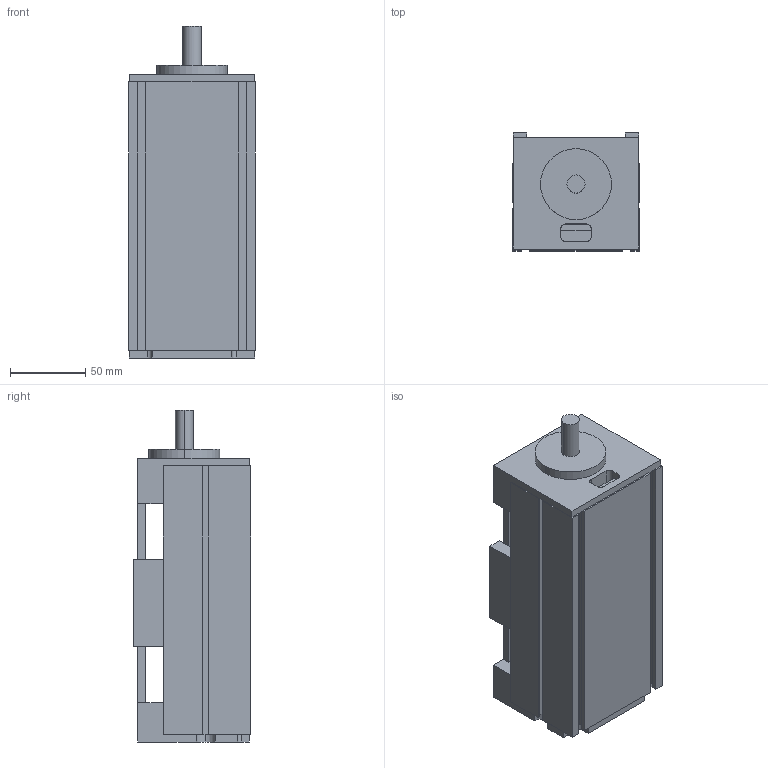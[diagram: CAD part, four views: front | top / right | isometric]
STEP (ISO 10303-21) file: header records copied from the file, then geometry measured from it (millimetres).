
FILE_DESCRIPTION (( 'STEP AP203' ), '1' );
FILE_NAME ('MSX84B-100-LL2005-P7短面板式 .STEP', '2013-11-02T03:03:42', ( '微软用户' ), ( '微软中国' ), 'SwSTEP 2.0', 'SolidWorks 2010', '' );
FILE_SCHEMA (( 'CONFIG_CONTROL_DESIGN' ));
Length unit declared in the file: millimetre
Products named in the file (1): MSX84B-100-LL2005-P7傻醱啣宒 
Bounding box: 84 x 78 x 220 mm (x, y, z)
Volume: 743973.2 mm3; surface area: 166318 mm2
Topology: 1 solids, 1 shells, 158 faces, 449 edges, 286 vertices
Faces by surface type: plane 126, cylinder 24, cone 8
Entity records: 5074 total; most frequent: CARTESIAN_POINT 886, ORIENTED_EDGE 882, DIRECTION 807, EDGE_CURVE 441, LINE 393, VECTOR 393, VERTEX_POINT 286, AXIS2_PLACEMENT_3D 207
